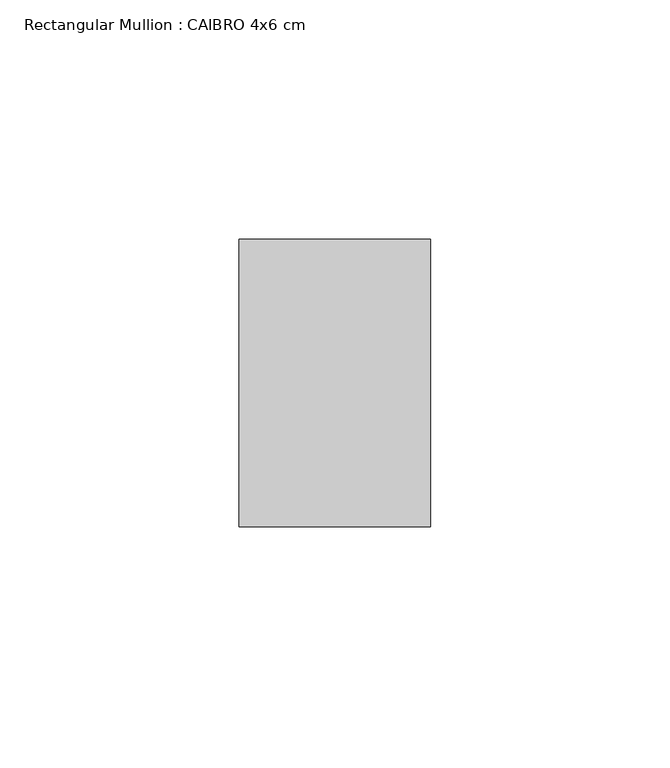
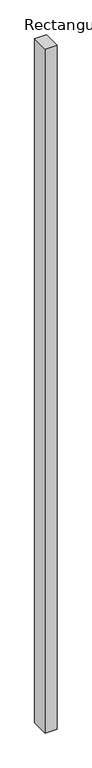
"""IFC4 building model written with IfcOpenShell, lengths in millimetres: member geometry, Rectangular Mullion : CAIBRO 4x6 cm."""

from ifc_helpers import new_model, si_unit, frame, origin, place, context, project, spatial, polyline, outline, extrude, source, transform, mapped, element, save


def rectangular_mullion_caibro_4x6_cm_68492c16(model_context):
    return source(origin(), model_context, "Body", "SweptSolid", [
        extrude(outline(polyline([(0.0, 60.0), (0.0, 0.0), (-40.0, 0.0), (-40.0, 60.0), (0.0, 60.0)])), frame((0.0, 0.0, -2426.8498099), z_axis=(0.0, 0.0, 1.0), x_axis=(1.0, 0.0, 0.0)), (0.0, 0.0, 1.0), 2426.8498099),
    ])


if __name__ == "__main__":
    model = new_model("IFC4")
    model_context = context("Model", 3, world=origin())
    ifc_project = project(units=[si_unit("LENGTHUNIT", "METRE", prefix="MILLI")], contexts=[model_context])
    site = spatial("IfcSite", under=ifc_project)
    building = spatial("IfcBuilding", under=site)
    placement = place(None, origin())
    rectangular_mullion_caibro_4x6_cm_shape = rectangular_mullion_caibro_4x6_cm_68492c16(model_context)
    element("IfcMember", 1, ObjectType="Rectangular Mullion : CAIBRO 4x6 cm", at=placement, inside=building, context=model_context, shape_type="MappedRepresentation", body=[
        mapped(rectangular_mullion_caibro_4x6_cm_shape, transform((0.0, 0.0, 0.0), x_axis=(1.0, 0.0, 0.0), y_axis=(0.0, 1.0, 0.0), z_axis=(0.0, 0.0, 1.0))),
    ])
    save(model, "model.ifc")
